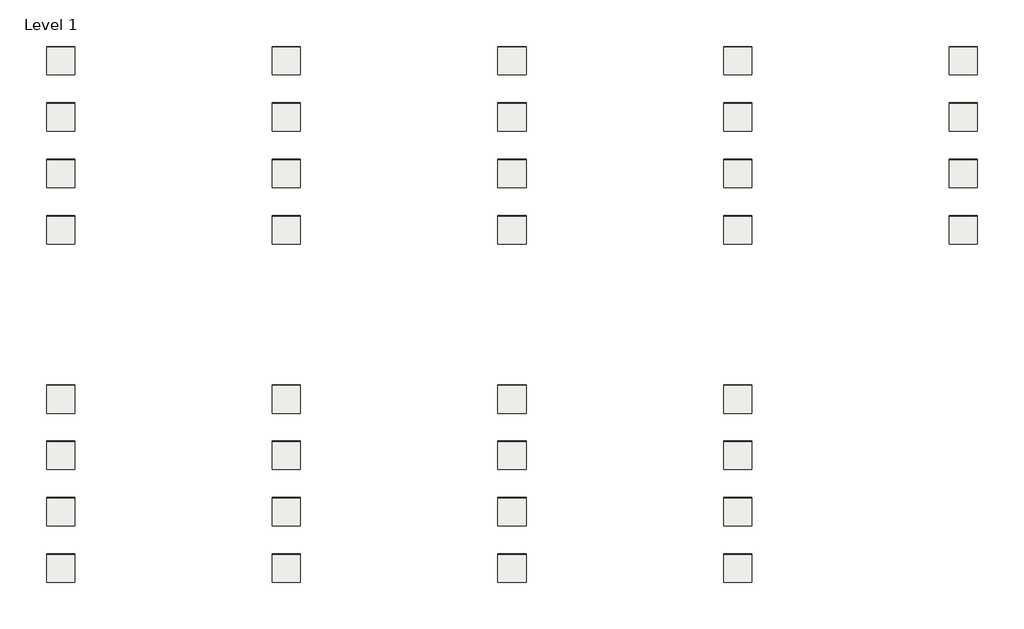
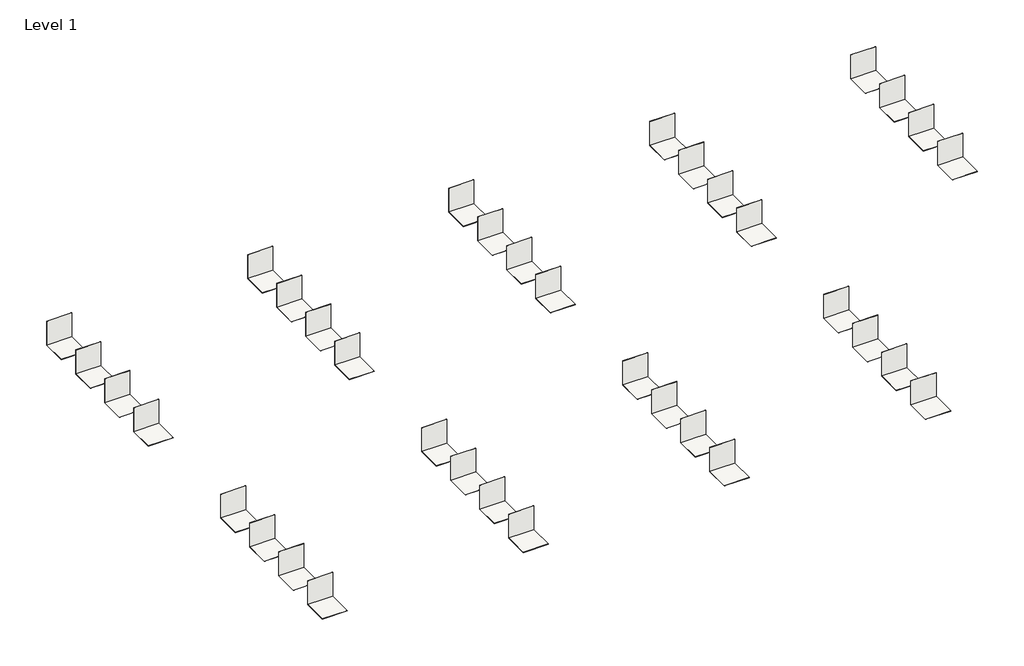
# One storey: 72 coverings.
"""IFC4 building model written with IfcOpenShell, lengths in millimetres."""

import ifcopenshell
import ifcopenshell.guid

model = None  # the IFC model being written
_history = None  # IfcOwnerHistory: only IFC2X3 demands one
_inside = {}  # id of a spatial element -> (the spatial element, [elements in it])
_under = {}  # id of a project, library or spatial element -> (it, [spatial elements below it])
_declared = {}  # id of a project -> (the project, [libraries it declares])
_typed = {}  # id of a type object -> (the type object, [elements of that type])
_made_of = {}  # id of a material, layer set ... -> (it, [elements and type objects made of it])


def new_model(schema):
    """Start an empty IFC model of exactly this schema.

    Asked for "IFC4X3", IfcOpenShell would pick the latest addendum, in which some entities
    have other attributes; the version numbers below select the first issue.
    IFC2X3 requires an IfcOwnerHistory on every rooted entity: one is made here for all.
    """
    global model, _history
    if schema == "IFC4X3":
        model = ifcopenshell.file(schema_version=(4, 3, 0, 0))
    else:
        model = ifcopenshell.file(schema=schema)
    _inside.clear()
    _under.clear()
    _declared.clear()
    _typed.clear()
    _made_of.clear()
    _history = None
    if model.schema == "IFC2X3":
        org = make("IfcOrganization", Name="unknown")
        user = make(
            "IfcPersonAndOrganization",
            ThePerson=make("IfcPerson", FamilyName="unknown"),
            TheOrganization=org,
        )
        app = make(
            "IfcApplication",
            ApplicationDeveloper=org,
            Version="unknown",
            ApplicationFullName="unknown",
            ApplicationIdentifier="unknown",
        )
        _history = make(
            "IfcOwnerHistory",
            OwningUser=user,
            OwningApplication=app,
            ChangeAction="ADDED",
            CreationDate=0,
        )
    return model


def make(cls, **values):
    """One entity of the class cls with the attributes given. An attribute that is None is left unset."""
    return model.create_entity(
        cls, **{name: value for name, value in values.items() if value is not None}
    )


def rooted(cls, **values):
    """An entity with a GlobalId (a new one), such as an element, a storey or a relation."""
    return make(cls, GlobalId=ifcopenshell.guid.new(), OwnerHistory=_history, **values)


def si_unit(unit_type, name, prefix=None):
    """IfcSIUnit, for example si_unit("LENGTHUNIT", "METRE", prefix="MILLI")."""
    return make("IfcSIUnit", UnitType=unit_type, Prefix=prefix, Name=name)


def assignment(units):
    """IfcUnitAssignment: the units of a project."""
    return None if units is None else make("IfcUnitAssignment", Units=units)


def point(xyz):
    """IfcCartesianPoint."""
    return None if xyz is None else make("IfcCartesianPoint", Coordinates=xyz)


def direction(xyz):
    """IfcDirection."""
    return None if xyz is None else make("IfcDirection", DirectionRatios=xyz)


def frame(location, z_axis=None, x_axis=None):
    """IfcAxis2Placement3D, a coordinate frame: its origin and axes. An axis left out is left unset."""
    return make(
        "IfcAxis2Placement3D",
        Location=point(location),
        Axis=direction(z_axis),
        RefDirection=direction(x_axis),
    )


def origin():
    """The frame at (0, 0, 0) with its axes left unset."""
    return frame((0.0, 0.0, 0.0))


def origin_with_axes():
    """The frame at (0, 0, 0) with the z axis (0, 0, 1) and the x axis (1, 0, 0) written out."""
    return frame((0.0, 0.0, 0.0), z_axis=(0.0, 0.0, 1.0), x_axis=(1.0, 0.0, 0.0))


def place(relative_to, where):
    """IfcLocalPlacement: puts the frame where relative to a parent placement (None: the world)."""
    return make(
        "IfcLocalPlacement", PlacementRelTo=relative_to, RelativePlacement=where
    )


def context(
    kind, dimensions, precision=None, world=None, true_north=None, identifier=None
):
    """IfcGeometricRepresentationContext, for example the 3D "Model" context."""
    return make(
        "IfcGeometricRepresentationContext",
        ContextIdentifier=identifier,
        ContextType=kind,
        CoordinateSpaceDimension=dimensions,
        Precision=precision,
        WorldCoordinateSystem=world,
        TrueNorth=true_north,
    )


def project(units=None, contexts=None):
    """IfcProject with its units and contexts."""
    return rooted(
        "IfcProject",
        Name="project",
        RepresentationContexts=contexts,
        UnitsInContext=assignment(units),
    )


def spatial(cls, under=None, at=None, **own):
    """A site, building, storey or space (cls), placed at a placement, below another one or the project."""
    s = rooted(cls, ObjectPlacement=at, **own)
    if under is not None:
        _under.setdefault(under.id(), (under, []))[1].append(s)
    return s


def polyline(points):
    """IfcPolyline through the points."""
    return make("IfcPolyline", Points=[point(p) for p in points])


def outline(outer, holes=None, kind="AREA"):
    """IfcArbitraryClosedProfileDef: a profile drawn as a closed curve; with holes, ...WithVoids."""
    if holes is None:
        return make("IfcArbitraryClosedProfileDef", ProfileType=kind, OuterCurve=outer)
    return make(
        "IfcArbitraryProfileDefWithVoids",
        ProfileType=kind,
        OuterCurve=outer,
        InnerCurves=holes,
    )


def extrude(swept, where, along, depth):
    """IfcExtrudedAreaSolid: the profile swept, set in the frame where, extruded along a direction by depth."""
    return make(
        "IfcExtrudedAreaSolid",
        SweptArea=swept,
        Position=where,
        ExtrudedDirection=direction(along),
        Depth=depth,
    )


def shape(context_of_items, identifier, shape_type, items):
    """IfcShapeRepresentation: the items that make up one representation, for example the "Body"."""
    return make(
        "IfcShapeRepresentation",
        ContextOfItems=context_of_items,
        RepresentationIdentifier=identifier,
        RepresentationType=shape_type,
        Items=items,
    )


def made_of(thing, what):
    """Note that an element or type object is made of a material, layer set ...; save() writes the relation."""
    if what is not None:
        _made_of.setdefault(what.id(), (what, []))[1].append(thing)
    return thing


def element(
    cls,
    number,
    at=None,
    inside=None,
    cuts=None,
    type_object=None,
    material=None,
    context=None,
    identifier="Body",
    shape_type=None,
    held_by="IfcProductDefinitionShape",
    body=None,
    shapes=None,
    **own,
):
    """One element of the class cls, such as IfcWall. Its Tag is "e" and its number.

    at: its placement. inside: the storey or other place that contains it. cuts: it is an
    opening in that element (IfcRelVoidsElement). A single representation is given by context,
    identifier, shape_type and body (its items); several are given by shapes. held_by: the class
    of the entity that holds the representations. save() writes the other relations.
    """
    e = rooted(cls, Tag="e%d" % number, ObjectPlacement=at, **own)
    if body is not None:
        shapes = [shape(context, identifier, shape_type, body)]
    if shapes is not None:
        e.Representation = make(held_by, Representations=shapes)
    if inside is not None:
        _inside.setdefault(inside.id(), (inside, []))[1].append(e)
    if cuts is not None:
        rooted(
            "IfcRelVoidsElement", RelatingBuildingElement=cuts, RelatedOpeningElement=e
        )
    if type_object is not None:
        _typed.setdefault(type_object.id(), (type_object, []))[1].append(e)
    return made_of(e, material)


def aggregate(whole, parts):
    """IfcRelAggregates: a whole, such as a stair, and the parts it consists of."""
    return rooted("IfcRelAggregates", RelatingObject=whole, RelatedObjects=parts)


def save(model, path):
    """Write the relations noted so far, then the file.

    IfcRelAggregates (storeys below a building ...), IfcRelContainedInSpatialStructure (elements
    in a storey), IfcRelDefinesByType, IfcRelAssociatesMaterial and IfcRelDeclares: one each for
    every whole, place, type object, material and project.
    """
    for whole, parts in _under.values():
        aggregate(whole, parts)
    for where, things in _inside.values():
        rooted(
            "IfcRelContainedInSpatialStructure",
            RelatedElements=things,
            RelatingStructure=where,
        )
    for kind, things in _typed.values():
        rooted("IfcRelDefinesByType", RelatedObjects=things, RelatingType=kind)
    for what, things in _made_of.values():
        rooted("IfcRelAssociatesMaterial", RelatedObjects=things, RelatingMaterial=what)
    for by, libraries in _declared.values():
        rooted("IfcRelDeclares", RelatingContext=by, RelatedDefinitions=libraries)
    model.write(path)


model = new_model("IFC4")

# Units and contexts
model_context = context("Model", 3, world=origin())
ifc_project = project(units=[si_unit("LENGTHUNIT", "METRE", prefix="MILLI")], contexts=[model_context])

# Site, building, storey
site = spatial("IfcSite", under=ifc_project)
building = spatial("IfcBuilding", under=site)
storey = spatial("IfcBuildingStorey", under=building, Name="Level 1", Elevation=0.0)

# Coverings
placement = place(None, origin())
element("IfcCovering", 1, ObjectType="REVIGRÉS-CROMATICA-CHEVRON-Right_9,7x59,2 -SOFT-Cromatica_antracite", at=placement, inside=storey, context=model_context, shape_type="SweptSolid", body=[
    extrude(outline(polyline([(4002.0475963, -11601.5675711), (3002.0475963, -11601.5675711), (3002.0475963, -10601.5675711), (4002.0475963, -10601.5675711), (4002.0475963, -11601.5675711)])), frame((0.0, 0.0, -8.5), z_axis=(0.0, 0.0, 1.0), x_axis=(1.0, 0.0, 0.0)), (0.0, 0.0, 1.0), 8.5),
])
element("IfcCovering", 2, ObjectType="REVIGRÉS-CROMATICA-CHEVRON-Right_9,7x59,2 -SOFT-Cromatica_antracite", at=placement, inside=storey, context=model_context, shape_type="SweptSolid", body=[
    extrude(outline(polyline([(4002.0475963, -10601.5675711), (3002.0475963, -10601.5675711), (3002.0475963, -10593.0675711), (4002.0475963, -10593.0675711), (4002.0475963, -10601.5675711)])), origin_with_axes(), (0.0, 0.0, 1.0), 1000.0),
])
element("IfcCovering", 3, ObjectType="REVIGRÉS-CROMATICA-CHEVRON-Left_9,7x59,2 -SOFT-Cromatica_antracite", at=placement, inside=storey, context=model_context, shape_type="SweptSolid", body=[
    extrude(outline(polyline([(4002.0475963, -13601.5675711), (3002.0475963, -13601.5675711), (3002.0475963, -12601.5675711), (4002.0475963, -12601.5675711), (4002.0475963, -13601.5675711)])), frame((0.0, 0.0, -8.5), z_axis=(0.0, 0.0, 1.0), x_axis=(1.0, 0.0, 0.0)), (0.0, 0.0, 1.0), 8.5),
])
element("IfcCovering", 4, ObjectType="REVIGRÉS-CROMATICA-CHEVRON-Left_9,7x59,2 -SOFT-Cromatica_antracite", at=placement, inside=storey, context=model_context, shape_type="SweptSolid", body=[
    extrude(outline(polyline([(4002.0475963, -12601.5675711), (3002.0475963, -12601.5675711), (3002.0475963, -12593.0675711), (4002.0475963, -12593.0675711), (4002.0475963, -12601.5675711)])), origin_with_axes(), (0.0, 0.0, 1.0), 1000.0),
])
element("IfcCovering", 5, ObjectType="REVIGRÉS-CROMATICA-CHEVRON-Right_9,7x29,5 -SOFT-Cromatica_antracite", at=placement, inside=storey, context=model_context, shape_type="SweptSolid", body=[
    extrude(outline(polyline([(4002.0475963, -15601.5675711), (3002.0475963, -15601.5675711), (3002.0475963, -14601.5675711), (4002.0475963, -14601.5675711), (4002.0475963, -15601.5675711)])), frame((0.0, 0.0, -8.5), z_axis=(0.0, 0.0, 1.0), x_axis=(1.0, 0.0, 0.0)), (0.0, 0.0, 1.0), 8.5),
])
element("IfcCovering", 6, ObjectType="REVIGRÉS-CROMATICA-CHEVRON-Right_9,7x29,5 -SOFT-Cromatica_antracite", at=placement, inside=storey, context=model_context, shape_type="SweptSolid", body=[
    extrude(outline(polyline([(4002.0475963, -14601.5675711), (3002.0475963, -14601.5675711), (3002.0475963, -14593.0675711), (4002.0475963, -14593.0675711), (4002.0475963, -14601.5675711)])), origin_with_axes(), (0.0, 0.0, 1.0), 1000.0),
])
element("IfcCovering", 7, ObjectType="REVIGRÉS-CROMATICA-CHEVRON-Left_9,7x29,5 -SOFT-Cromatica_antracite", at=placement, inside=storey, context=model_context, shape_type="SweptSolid", body=[
    extrude(outline(polyline([(4002.0475963, -17601.5675711), (3002.0475963, -17601.5675711), (3002.0475963, -16601.5675711), (4002.0475963, -16601.5675711), (4002.0475963, -17601.5675711)])), frame((0.0, 0.0, -8.5), z_axis=(0.0, 0.0, 1.0), x_axis=(1.0, 0.0, 0.0)), (0.0, 0.0, 1.0), 8.5),
])
element("IfcCovering", 8, ObjectType="REVIGRÉS-CROMATICA-CHEVRON-Left_9,7x29,5 -SOFT-Cromatica_antracite", at=placement, inside=storey, context=model_context, shape_type="SweptSolid", body=[
    extrude(outline(polyline([(4002.0475963, -16601.5675711), (3002.0475963, -16601.5675711), (3002.0475963, -16593.0675711), (4002.0475963, -16593.0675711), (4002.0475963, -16601.5675711)])), origin_with_axes(), (0.0, 0.0, 1.0), 1000.0),
])
element("IfcCovering", 9, ObjectType="REVIGRÉS-CROMATICA-CHEVRON-Right_9,7x59,2 -SOFT-Cromatica_bone", at=placement, inside=storey, context=model_context, shape_type="SweptSolid", body=[
    extrude(outline(polyline([(12002.0475963, -11601.5675711), (11002.0475963, -11601.5675711), (11002.0475963, -10601.5675711), (12002.0475963, -10601.5675711), (12002.0475963, -11601.5675711)])), frame((0.0, 0.0, -8.5), z_axis=(0.0, 0.0, 1.0), x_axis=(1.0, 0.0, 0.0)), (0.0, 0.0, 1.0), 8.5),
])
element("IfcCovering", 10, ObjectType="REVIGRÉS-CROMATICA-CHEVRON-Right_9,7x59,2 -SOFT-Cromatica_bone", at=placement, inside=storey, context=model_context, shape_type="SweptSolid", body=[
    extrude(outline(polyline([(12002.0475963, -10601.5675711), (11002.0475963, -10601.5675711), (11002.0475963, -10593.0675711), (12002.0475963, -10593.0675711), (12002.0475963, -10601.5675711)])), origin_with_axes(), (0.0, 0.0, 1.0), 1000.0),
])
element("IfcCovering", 11, ObjectType="REVIGRÉS-CROMATICA-CHEVRON-Left_9,7x59,2 -SOFT-Cromatica_bone", at=placement, inside=storey, context=model_context, shape_type="SweptSolid", body=[
    extrude(outline(polyline([(12002.0475963, -13601.5675711), (11002.0475963, -13601.5675711), (11002.0475963, -12601.5675711), (12002.0475963, -12601.5675711), (12002.0475963, -13601.5675711)])), frame((0.0, 0.0, -8.5), z_axis=(0.0, 0.0, 1.0), x_axis=(1.0, 0.0, 0.0)), (0.0, 0.0, 1.0), 8.5),
])
element("IfcCovering", 12, ObjectType="REVIGRÉS-CROMATICA-CHEVRON-Left_9,7x59,2 -SOFT-Cromatica_bone", at=placement, inside=storey, context=model_context, shape_type="SweptSolid", body=[
    extrude(outline(polyline([(12002.0475963, -12601.5675711), (11002.0475963, -12601.5675711), (11002.0475963, -12593.0675711), (12002.0475963, -12593.0675711), (12002.0475963, -12601.5675711)])), origin_with_axes(), (0.0, 0.0, 1.0), 1000.0),
])
element("IfcCovering", 13, ObjectType="REVIGRÉS-CROMATICA-CHEVRON-Right_9,7x29,5 -SOFT-Cromatica_bone", at=placement, inside=storey, context=model_context, shape_type="SweptSolid", body=[
    extrude(outline(polyline([(12002.0475963, -15601.5675711), (11002.0475963, -15601.5675711), (11002.0475963, -14601.5675711), (12002.0475963, -14601.5675711), (12002.0475963, -15601.5675711)])), frame((0.0, 0.0, -8.5), z_axis=(0.0, 0.0, 1.0), x_axis=(1.0, 0.0, 0.0)), (0.0, 0.0, 1.0), 8.5),
])
element("IfcCovering", 14, ObjectType="REVIGRÉS-CROMATICA-CHEVRON-Right_9,7x29,5 -SOFT-Cromatica_bone", at=placement, inside=storey, context=model_context, shape_type="SweptSolid", body=[
    extrude(outline(polyline([(12002.0475963, -14601.5675711), (11002.0475963, -14601.5675711), (11002.0475963, -14593.0675711), (12002.0475963, -14593.0675711), (12002.0475963, -14601.5675711)])), origin_with_axes(), (0.0, 0.0, 1.0), 1000.0),
])
element("IfcCovering", 15, ObjectType="REVIGRÉS-CROMATICA-CHEVRON-Left_9,7x29,5 -SOFT-Cromatica_bone", at=placement, inside=storey, context=model_context, shape_type="SweptSolid", body=[
    extrude(outline(polyline([(12002.0475963, -17601.5675711), (11002.0475963, -17601.5675711), (11002.0475963, -16601.5675711), (12002.0475963, -16601.5675711), (12002.0475963, -17601.5675711)])), frame((0.0, 0.0, -8.5), z_axis=(0.0, 0.0, 1.0), x_axis=(1.0, 0.0, 0.0)), (0.0, 0.0, 1.0), 8.5),
])
element("IfcCovering", 16, ObjectType="REVIGRÉS-CROMATICA-CHEVRON-Left_9,7x29,5 -SOFT-Cromatica_bone", at=placement, inside=storey, context=model_context, shape_type="SweptSolid", body=[
    extrude(outline(polyline([(12002.0475963, -16601.5675711), (11002.0475963, -16601.5675711), (11002.0475963, -16593.0675711), (12002.0475963, -16593.0675711), (12002.0475963, -16601.5675711)])), origin_with_axes(), (0.0, 0.0, 1.0), 1000.0),
])
element("IfcCovering", 17, ObjectType="REVIGRÉS-CROMATICA-CHEVRON-Right_9,7x59,2 -SOFT-Cromatica_grafite", at=placement, inside=storey, context=model_context, shape_type="SweptSolid", body=[
    extrude(outline(polyline([(20002.0475963, -11601.5675711), (19002.0475963, -11601.5675711), (19002.0475963, -10601.5675711), (20002.0475963, -10601.5675711), (20002.0475963, -11601.5675711)])), frame((0.0, 0.0, -8.5), z_axis=(0.0, 0.0, 1.0), x_axis=(1.0, 0.0, 0.0)), (0.0, 0.0, 1.0), 8.5),
])
element("IfcCovering", 18, ObjectType="REVIGRÉS-CROMATICA-CHEVRON-Right_9,7x59,2 -SOFT-Cromatica_grafite", at=placement, inside=storey, context=model_context, shape_type="SweptSolid", body=[
    extrude(outline(polyline([(20002.0475963, -10601.5675711), (19002.0475963, -10601.5675711), (19002.0475963, -10593.0675711), (20002.0475963, -10593.0675711), (20002.0475963, -10601.5675711)])), origin_with_axes(), (0.0, 0.0, 1.0), 1000.0),
])
element("IfcCovering", 19, ObjectType="REVIGRÉS-CROMATICA-CHEVRON-Left_9,7x59,2 -SOFT-Cromatica_grafite", at=placement, inside=storey, context=model_context, shape_type="SweptSolid", body=[
    extrude(outline(polyline([(20002.0475963, -13601.5675711), (19002.0475963, -13601.5675711), (19002.0475963, -12601.5675711), (20002.0475963, -12601.5675711), (20002.0475963, -13601.5675711)])), frame((0.0, 0.0, -8.5), z_axis=(0.0, 0.0, 1.0), x_axis=(1.0, 0.0, 0.0)), (0.0, 0.0, 1.0), 8.5),
])
element("IfcCovering", 20, ObjectType="REVIGRÉS-CROMATICA-CHEVRON-Left_9,7x59,2 -SOFT-Cromatica_grafite", at=placement, inside=storey, context=model_context, shape_type="SweptSolid", body=[
    extrude(outline(polyline([(20002.0475963, -12601.5675711), (19002.0475963, -12601.5675711), (19002.0475963, -12593.0675711), (20002.0475963, -12593.0675711), (20002.0475963, -12601.5675711)])), origin_with_axes(), (0.0, 0.0, 1.0), 1000.0),
])
element("IfcCovering", 21, ObjectType="REVIGRÉS-CROMATICA-CHEVRON-Right_9,7x29,5 -SOFT-Cromatica_grafite", at=placement, inside=storey, context=model_context, shape_type="SweptSolid", body=[
    extrude(outline(polyline([(20002.0475963, -15601.5675711), (19002.0475963, -15601.5675711), (19002.0475963, -14601.5675711), (20002.0475963, -14601.5675711), (20002.0475963, -15601.5675711)])), frame((0.0, 0.0, -8.5), z_axis=(0.0, 0.0, 1.0), x_axis=(1.0, 0.0, 0.0)), (0.0, 0.0, 1.0), 8.5),
])
element("IfcCovering", 22, ObjectType="REVIGRÉS-CROMATICA-CHEVRON-Right_9,7x29,5 -SOFT-Cromatica_grafite", at=placement, inside=storey, context=model_context, shape_type="SweptSolid", body=[
    extrude(outline(polyline([(20002.0475963, -14601.5675711), (19002.0475963, -14601.5675711), (19002.0475963, -14593.0675711), (20002.0475963, -14593.0675711), (20002.0475963, -14601.5675711)])), origin_with_axes(), (0.0, 0.0, 1.0), 1000.0),
])
element("IfcCovering", 23, ObjectType="REVIGRÉS-CROMATICA-CHEVRON-Left_9,7x29,5 -SOFT-Cromatica_grafite", at=placement, inside=storey, context=model_context, shape_type="SweptSolid", body=[
    extrude(outline(polyline([(20002.0475963, -17601.5675711), (19002.0475963, -17601.5675711), (19002.0475963, -16601.5675711), (20002.0475963, -16601.5675711), (20002.0475963, -17601.5675711)])), frame((0.0, 0.0, -8.5), z_axis=(0.0, 0.0, 1.0), x_axis=(1.0, 0.0, 0.0)), (0.0, 0.0, 1.0), 8.5),
])
element("IfcCovering", 24, ObjectType="REVIGRÉS-CROMATICA-CHEVRON-Left_9,7x29,5 -SOFT-Cromatica_grafite", at=placement, inside=storey, context=model_context, shape_type="SweptSolid", body=[
    extrude(outline(polyline([(20002.0475963, -16601.5675711), (19002.0475963, -16601.5675711), (19002.0475963, -16593.0675711), (20002.0475963, -16593.0675711), (20002.0475963, -16601.5675711)])), origin_with_axes(), (0.0, 0.0, 1.0), 1000.0),
])
element("IfcCovering", 25, ObjectType="REVIGRÉS-CROMATICA-CHEVRON-Right_9,7x59,2 -SOFT-Cromatica_ice", at=placement, inside=storey, context=model_context, shape_type="SweptSolid", body=[
    extrude(outline(polyline([(28002.0475963, -11601.5675711), (27002.0475963, -11601.5675711), (27002.0475963, -10601.5675711), (28002.0475963, -10601.5675711), (28002.0475963, -11601.5675711)])), frame((0.0, 0.0, -8.5), z_axis=(0.0, 0.0, 1.0), x_axis=(1.0, 0.0, 0.0)), (0.0, 0.0, 1.0), 8.5),
])
element("IfcCovering", 26, ObjectType="REVIGRÉS-CROMATICA-CHEVRON-Right_9,7x59,2 -SOFT-Cromatica_ice", at=placement, inside=storey, context=model_context, shape_type="SweptSolid", body=[
    extrude(outline(polyline([(28002.0475963, -10601.5675711), (27002.0475963, -10601.5675711), (27002.0475963, -10593.0675711), (28002.0475963, -10593.0675711), (28002.0475963, -10601.5675711)])), origin_with_axes(), (0.0, 0.0, 1.0), 1000.0),
])
element("IfcCovering", 27, ObjectType="REVIGRÉS-CROMATICA-CHEVRON-Left_9,7x59,2 -SOFT-Cromatica_ice", at=placement, inside=storey, context=model_context, shape_type="SweptSolid", body=[
    extrude(outline(polyline([(28002.0475963, -13601.5675711), (27002.0475963, -13601.5675711), (27002.0475963, -12601.5675711), (28002.0475963, -12601.5675711), (28002.0475963, -13601.5675711)])), frame((0.0, 0.0, -8.5), z_axis=(0.0, 0.0, 1.0), x_axis=(1.0, 0.0, 0.0)), (0.0, 0.0, 1.0), 8.5),
])
element("IfcCovering", 28, ObjectType="REVIGRÉS-CROMATICA-CHEVRON-Left_9,7x59,2 -SOFT-Cromatica_ice", at=placement, inside=storey, context=model_context, shape_type="SweptSolid", body=[
    extrude(outline(polyline([(28002.0475963, -12601.5675711), (27002.0475963, -12601.5675711), (27002.0475963, -12593.0675711), (28002.0475963, -12593.0675711), (28002.0475963, -12601.5675711)])), origin_with_axes(), (0.0, 0.0, 1.0), 1000.0),
])
element("IfcCovering", 29, ObjectType="REVIGRÉS-CROMATICA-CHEVRON-Right_9,7x29,5 -SOFT-Cromatica_ice", at=placement, inside=storey, context=model_context, shape_type="SweptSolid", body=[
    extrude(outline(polyline([(28002.0475963, -15601.5675711), (27002.0475963, -15601.5675711), (27002.0475963, -14601.5675711), (28002.0475963, -14601.5675711), (28002.0475963, -15601.5675711)])), frame((0.0, 0.0, -8.5), z_axis=(0.0, 0.0, 1.0), x_axis=(1.0, 0.0, 0.0)), (0.0, 0.0, 1.0), 8.5),
])
element("IfcCovering", 30, ObjectType="REVIGRÉS-CROMATICA-CHEVRON-Right_9,7x29,5 -SOFT-Cromatica_ice", at=placement, inside=storey, context=model_context, shape_type="SweptSolid", body=[
    extrude(outline(polyline([(28002.0475963, -14601.5675711), (27002.0475963, -14601.5675711), (27002.0475963, -14593.0675711), (28002.0475963, -14593.0675711), (28002.0475963, -14601.5675711)])), origin_with_axes(), (0.0, 0.0, 1.0), 1000.0),
])
element("IfcCovering", 31, ObjectType="REVIGRÉS-CROMATICA-CHEVRON-Left_9,7x29,5 -SOFT-Cromatica_ice", at=placement, inside=storey, context=model_context, shape_type="SweptSolid", body=[
    extrude(outline(polyline([(28002.0475963, -17601.5675711), (27002.0475963, -17601.5675711), (27002.0475963, -16601.5675711), (28002.0475963, -16601.5675711), (28002.0475963, -17601.5675711)])), frame((0.0, 0.0, -8.5), z_axis=(0.0, 0.0, 1.0), x_axis=(1.0, 0.0, 0.0)), (0.0, 0.0, 1.0), 8.5),
])
element("IfcCovering", 32, ObjectType="REVIGRÉS-CROMATICA-CHEVRON-Left_9,7x29,5 -SOFT-Cromatica_ice", at=placement, inside=storey, context=model_context, shape_type="SweptSolid", body=[
    extrude(outline(polyline([(28002.0475963, -16601.5675711), (27002.0475963, -16601.5675711), (27002.0475963, -16593.0675711), (28002.0475963, -16593.0675711), (28002.0475963, -16601.5675711)])), origin_with_axes(), (0.0, 0.0, 1.0), 1000.0),
])
element("IfcCovering", 33, ObjectType="REVIGRÉS-CROMATICA-CHEVRON-Right_9,7x59,2 -SOFT-Cromatica_jet", at=placement, inside=storey, context=model_context, shape_type="SweptSolid", body=[
    extrude(outline(polyline([(36002.0475963, -11601.5675711), (35002.0475963, -11601.5675711), (35002.0475963, -10601.5675711), (36002.0475963, -10601.5675711), (36002.0475963, -11601.5675711)])), frame((0.0, 0.0, -8.5), z_axis=(0.0, 0.0, 1.0), x_axis=(1.0, 0.0, 0.0)), (0.0, 0.0, 1.0), 8.5),
])
element("IfcCovering", 34, ObjectType="REVIGRÉS-CROMATICA-CHEVRON-Right_9,7x59,2 -SOFT-Cromatica_jet", at=placement, inside=storey, context=model_context, shape_type="SweptSolid", body=[
    extrude(outline(polyline([(36002.0475963, -10601.5675711), (35002.0475963, -10601.5675711), (35002.0475963, -10593.0675711), (36002.0475963, -10593.0675711), (36002.0475963, -10601.5675711)])), origin_with_axes(), (0.0, 0.0, 1.0), 1000.0),
])
element("IfcCovering", 35, ObjectType="REVIGRÉS-CROMATICA-CHEVRON-Left_9,7x59,2 -SOFT-Cromatica_jet", at=placement, inside=storey, context=model_context, shape_type="SweptSolid", body=[
    extrude(outline(polyline([(36002.0475963, -13601.5675711), (35002.0475963, -13601.5675711), (35002.0475963, -12601.5675711), (36002.0475963, -12601.5675711), (36002.0475963, -13601.5675711)])), frame((0.0, 0.0, -8.5), z_axis=(0.0, 0.0, 1.0), x_axis=(1.0, 0.0, 0.0)), (0.0, 0.0, 1.0), 8.5),
])
element("IfcCovering", 36, ObjectType="REVIGRÉS-CROMATICA-CHEVRON-Left_9,7x59,2 -SOFT-Cromatica_jet", at=placement, inside=storey, context=model_context, shape_type="SweptSolid", body=[
    extrude(outline(polyline([(36002.0475963, -12601.5675711), (35002.0475963, -12601.5675711), (35002.0475963, -12593.0675711), (36002.0475963, -12593.0675711), (36002.0475963, -12601.5675711)])), origin_with_axes(), (0.0, 0.0, 1.0), 1000.0),
])
element("IfcCovering", 37, ObjectType="REVIGRÉS-CROMATICA-CHEVRON-Right_9,7x29,5 -SOFT-Cromatica_jet", at=placement, inside=storey, context=model_context, shape_type="SweptSolid", body=[
    extrude(outline(polyline([(36002.0475963, -15601.5675711), (35002.0475963, -15601.5675711), (35002.0475963, -14601.5675711), (36002.0475963, -14601.5675711), (36002.0475963, -15601.5675711)])), frame((0.0, 0.0, -8.5), z_axis=(0.0, 0.0, 1.0), x_axis=(1.0, 0.0, 0.0)), (0.0, 0.0, 1.0), 8.5),
])
element("IfcCovering", 38, ObjectType="REVIGRÉS-CROMATICA-CHEVRON-Right_9,7x29,5 -SOFT-Cromatica_jet", at=placement, inside=storey, context=model_context, shape_type="SweptSolid", body=[
    extrude(outline(polyline([(36002.0475963, -14601.5675711), (35002.0475963, -14601.5675711), (35002.0475963, -14593.0675711), (36002.0475963, -14593.0675711), (36002.0475963, -14601.5675711)])), origin_with_axes(), (0.0, 0.0, 1.0), 1000.0),
])
element("IfcCovering", 39, ObjectType="REVIGRÉS-CROMATICA-CHEVRON-Left_9,7x29,5 -SOFT-Cromatica_jet", at=placement, inside=storey, context=model_context, shape_type="SweptSolid", body=[
    extrude(outline(polyline([(36002.0475963, -17601.5675711), (35002.0475963, -17601.5675711), (35002.0475963, -16601.5675711), (36002.0475963, -16601.5675711), (36002.0475963, -17601.5675711)])), frame((0.0, 0.0, -8.5), z_axis=(0.0, 0.0, 1.0), x_axis=(1.0, 0.0, 0.0)), (0.0, 0.0, 1.0), 8.5),
])
element("IfcCovering", 40, ObjectType="REVIGRÉS-CROMATICA-CHEVRON-Left_9,7x29,5 -SOFT-Cromatica_jet", at=placement, inside=storey, context=model_context, shape_type="SweptSolid", body=[
    extrude(outline(polyline([(36002.0475963, -16601.5675711), (35002.0475963, -16601.5675711), (35002.0475963, -16593.0675711), (36002.0475963, -16593.0675711), (36002.0475963, -16601.5675711)])), origin_with_axes(), (0.0, 0.0, 1.0), 1000.0),
])
element("IfcCovering", 41, ObjectType="REVIGRÉS-CROMATICA-CHEVRON-Right_9,7x59,2 -SOFT-Cromatica_platina", at=placement, inside=storey, context=model_context, shape_type="SweptSolid", body=[
    extrude(outline(polyline([(4002.0475963, -23601.567571), (3002.0475963, -23601.567571), (3002.0475963, -22601.567571), (4002.0475963, -22601.567571), (4002.0475963, -23601.567571)])), frame((0.0, 0.0, -8.5), z_axis=(0.0, 0.0, 1.0), x_axis=(1.0, 0.0, 0.0)), (0.0, 0.0, 1.0), 8.5),
])
element("IfcCovering", 42, ObjectType="REVIGRÉS-CROMATICA-CHEVRON-Right_9,7x59,2 -SOFT-Cromatica_platina", at=placement, inside=storey, context=model_context, shape_type="SweptSolid", body=[
    extrude(outline(polyline([(4002.0475963, -22601.567571), (3002.0475963, -22601.567571), (3002.0475963, -22593.067571), (4002.0475963, -22593.067571), (4002.0475963, -22601.567571)])), origin_with_axes(), (0.0, 0.0, 1.0), 1000.0),
])
element("IfcCovering", 43, ObjectType="REVIGRÉS-CROMATICA-CHEVRON-Left_9,7x59,2 -SOFT-Cromatica_platina", at=placement, inside=storey, context=model_context, shape_type="SweptSolid", body=[
    extrude(outline(polyline([(4002.0475963, -25601.567571), (3002.0475963, -25601.567571), (3002.0475963, -24601.567571), (4002.0475963, -24601.567571), (4002.0475963, -25601.567571)])), frame((0.0, 0.0, -8.5), z_axis=(0.0, 0.0, 1.0), x_axis=(1.0, 0.0, 0.0)), (0.0, 0.0, 1.0), 8.5),
])
element("IfcCovering", 44, ObjectType="REVIGRÉS-CROMATICA-CHEVRON-Left_9,7x59,2 -SOFT-Cromatica_platina", at=placement, inside=storey, context=model_context, shape_type="SweptSolid", body=[
    extrude(outline(polyline([(4002.0475963, -24601.567571), (3002.0475963, -24601.567571), (3002.0475963, -24593.067571), (4002.0475963, -24593.067571), (4002.0475963, -24601.567571)])), origin_with_axes(), (0.0, 0.0, 1.0), 1000.0),
])
element("IfcCovering", 45, ObjectType="REVIGRÉS-CROMATICA-CHEVRON-Right_9,7x29,5 -SOFT-Cromatica_platina", at=placement, inside=storey, context=model_context, shape_type="SweptSolid", body=[
    extrude(outline(polyline([(4002.0475963, -27601.567571), (3002.0475963, -27601.567571), (3002.0475963, -26601.567571), (4002.0475963, -26601.567571), (4002.0475963, -27601.567571)])), frame((0.0, 0.0, -8.5), z_axis=(0.0, 0.0, 1.0), x_axis=(1.0, 0.0, 0.0)), (0.0, 0.0, 1.0), 8.5),
])
element("IfcCovering", 46, ObjectType="REVIGRÉS-CROMATICA-CHEVRON-Right_9,7x29,5 -SOFT-Cromatica_platina", at=placement, inside=storey, context=model_context, shape_type="SweptSolid", body=[
    extrude(outline(polyline([(4002.0475963, -26601.567571), (3002.0475963, -26601.567571), (3002.0475963, -26593.067571), (4002.0475963, -26593.067571), (4002.0475963, -26601.567571)])), origin_with_axes(), (0.0, 0.0, 1.0), 1000.0),
])
element("IfcCovering", 47, ObjectType="REVIGRÉS-CROMATICA-CHEVRON-Left_9,7x29,5 -SOFT-Cromatica_platina", at=placement, inside=storey, context=model_context, shape_type="SweptSolid", body=[
    extrude(outline(polyline([(4002.0475963, -29601.567571), (3002.0475963, -29601.567571), (3002.0475963, -28601.567571), (4002.0475963, -28601.567571), (4002.0475963, -29601.567571)])), frame((0.0, 0.0, -8.5), z_axis=(0.0, 0.0, 1.0), x_axis=(1.0, 0.0, 0.0)), (0.0, 0.0, 1.0), 8.5),
])
element("IfcCovering", 48, ObjectType="REVIGRÉS-CROMATICA-CHEVRON-Left_9,7x29,5 -SOFT-Cromatica_platina", at=placement, inside=storey, context=model_context, shape_type="SweptSolid", body=[
    extrude(outline(polyline([(4002.0475963, -28601.567571), (3002.0475963, -28601.567571), (3002.0475963, -28593.067571), (4002.0475963, -28593.067571), (4002.0475963, -28601.567571)])), origin_with_axes(), (0.0, 0.0, 1.0), 1000.0),
])
element("IfcCovering", 49, ObjectType="REVIGRÉS-CROMATICA-CHEVRON-Right_9,7x59,2 -SOFT-Cromatica_preto", at=placement, inside=storey, context=model_context, shape_type="SweptSolid", body=[
    extrude(outline(polyline([(12002.0475963, -23601.567571), (11002.0475963, -23601.567571), (11002.0475963, -22601.567571), (12002.0475963, -22601.567571), (12002.0475963, -23601.567571)])), frame((0.0, 0.0, -8.5), z_axis=(0.0, 0.0, 1.0), x_axis=(1.0, 0.0, 0.0)), (0.0, 0.0, 1.0), 8.5),
])
element("IfcCovering", 50, ObjectType="REVIGRÉS-CROMATICA-CHEVRON-Right_9,7x59,2 -SOFT-Cromatica_preto", at=placement, inside=storey, context=model_context, shape_type="SweptSolid", body=[
    extrude(outline(polyline([(12002.0475963, -22601.567571), (11002.0475963, -22601.567571), (11002.0475963, -22593.067571), (12002.0475963, -22593.067571), (12002.0475963, -22601.567571)])), origin_with_axes(), (0.0, 0.0, 1.0), 1000.0),
])
element("IfcCovering", 51, ObjectType="REVIGRÉS-CROMATICA-CHEVRON-Left_9,7x59,2 -SOFT-Cromatica_preto", at=placement, inside=storey, context=model_context, shape_type="SweptSolid", body=[
    extrude(outline(polyline([(12002.0475963, -25601.567571), (11002.0475963, -25601.567571), (11002.0475963, -24601.567571), (12002.0475963, -24601.567571), (12002.0475963, -25601.567571)])), frame((0.0, 0.0, -8.5), z_axis=(0.0, 0.0, 1.0), x_axis=(1.0, 0.0, 0.0)), (0.0, 0.0, 1.0), 8.5),
])
element("IfcCovering", 52, ObjectType="REVIGRÉS-CROMATICA-CHEVRON-Left_9,7x59,2 -SOFT-Cromatica_preto", at=placement, inside=storey, context=model_context, shape_type="SweptSolid", body=[
    extrude(outline(polyline([(12002.0475963, -24601.567571), (11002.0475963, -24601.567571), (11002.0475963, -24593.067571), (12002.0475963, -24593.067571), (12002.0475963, -24601.567571)])), origin_with_axes(), (0.0, 0.0, 1.0), 1000.0),
])
element("IfcCovering", 53, ObjectType="REVIGRÉS-CROMATICA-CHEVRON-Right_9,7x29,5 -SOFT-Cromatica_preto", at=placement, inside=storey, context=model_context, shape_type="SweptSolid", body=[
    extrude(outline(polyline([(12002.0475963, -27601.567571), (11002.0475963, -27601.567571), (11002.0475963, -26601.567571), (12002.0475963, -26601.567571), (12002.0475963, -27601.567571)])), frame((0.0, 0.0, -8.5), z_axis=(0.0, 0.0, 1.0), x_axis=(1.0, 0.0, 0.0)), (0.0, 0.0, 1.0), 8.5),
])
element("IfcCovering", 54, ObjectType="REVIGRÉS-CROMATICA-CHEVRON-Right_9,7x29,5 -SOFT-Cromatica_preto", at=placement, inside=storey, context=model_context, shape_type="SweptSolid", body=[
    extrude(outline(polyline([(12002.0475963, -26601.567571), (11002.0475963, -26601.567571), (11002.0475963, -26593.067571), (12002.0475963, -26593.067571), (12002.0475963, -26601.567571)])), origin_with_axes(), (0.0, 0.0, 1.0), 1000.0),
])
element("IfcCovering", 55, ObjectType="REVIGRÉS-CROMATICA-CHEVRON-Left_9,7x29,5 -SOFT-Cromatica_preto", at=placement, inside=storey, context=model_context, shape_type="SweptSolid", body=[
    extrude(outline(polyline([(12002.0475963, -29601.567571), (11002.0475963, -29601.567571), (11002.0475963, -28601.567571), (12002.0475963, -28601.567571), (12002.0475963, -29601.567571)])), frame((0.0, 0.0, -8.5), z_axis=(0.0, 0.0, 1.0), x_axis=(1.0, 0.0, 0.0)), (0.0, 0.0, 1.0), 8.5),
])
element("IfcCovering", 56, ObjectType="REVIGRÉS-CROMATICA-CHEVRON-Left_9,7x29,5 -SOFT-Cromatica_preto", at=placement, inside=storey, context=model_context, shape_type="SweptSolid", body=[
    extrude(outline(polyline([(12002.0475963, -28601.567571), (11002.0475963, -28601.567571), (11002.0475963, -28593.067571), (12002.0475963, -28593.067571), (12002.0475963, -28601.567571)])), origin_with_axes(), (0.0, 0.0, 1.0), 1000.0),
])
element("IfcCovering", 57, ObjectType="REVIGRÉS-CROMATICA-CHEVRON-Right_9,7x59,2 -SOFT-Cromatica_quartz", at=placement, inside=storey, context=model_context, shape_type="SweptSolid", body=[
    extrude(outline(polyline([(20002.0475963, -23601.567571), (19002.0475963, -23601.567571), (19002.0475963, -22601.567571), (20002.0475963, -22601.567571), (20002.0475963, -23601.567571)])), frame((0.0, 0.0, -8.5), z_axis=(0.0, 0.0, 1.0), x_axis=(1.0, 0.0, 0.0)), (0.0, 0.0, 1.0), 8.5),
])
element("IfcCovering", 58, ObjectType="REVIGRÉS-CROMATICA-CHEVRON-Right_9,7x59,2 -SOFT-Cromatica_quartz", at=placement, inside=storey, context=model_context, shape_type="SweptSolid", body=[
    extrude(outline(polyline([(20002.0475963, -22601.567571), (19002.0475963, -22601.567571), (19002.0475963, -22593.067571), (20002.0475963, -22593.067571), (20002.0475963, -22601.567571)])), origin_with_axes(), (0.0, 0.0, 1.0), 1000.0),
])
element("IfcCovering", 59, ObjectType="REVIGRÉS-CROMATICA-CHEVRON-Left_9,7x59,2 -SOFT-Cromatica_quartz", at=placement, inside=storey, context=model_context, shape_type="SweptSolid", body=[
    extrude(outline(polyline([(20002.0475963, -25601.567571), (19002.0475963, -25601.567571), (19002.0475963, -24601.567571), (20002.0475963, -24601.567571), (20002.0475963, -25601.567571)])), frame((0.0, 0.0, -8.5), z_axis=(0.0, 0.0, 1.0), x_axis=(1.0, 0.0, 0.0)), (0.0, 0.0, 1.0), 8.5),
])
element("IfcCovering", 60, ObjectType="REVIGRÉS-CROMATICA-CHEVRON-Left_9,7x59,2 -SOFT-Cromatica_quartz", at=placement, inside=storey, context=model_context, shape_type="SweptSolid", body=[
    extrude(outline(polyline([(20002.0475963, -24601.567571), (19002.0475963, -24601.567571), (19002.0475963, -24593.067571), (20002.0475963, -24593.067571), (20002.0475963, -24601.567571)])), origin_with_axes(), (0.0, 0.0, 1.0), 1000.0),
])
element("IfcCovering", 61, ObjectType="REVIGRÉS-CROMATICA-CHEVRON-Right_9,7x29,5 -SOFT-Cromatica_quartz", at=placement, inside=storey, context=model_context, shape_type="SweptSolid", body=[
    extrude(outline(polyline([(20002.0475963, -27601.567571), (19002.0475963, -27601.567571), (19002.0475963, -26601.567571), (20002.0475963, -26601.567571), (20002.0475963, -27601.567571)])), frame((0.0, 0.0, -8.5), z_axis=(0.0, 0.0, 1.0), x_axis=(1.0, 0.0, 0.0)), (0.0, 0.0, 1.0), 8.5),
])
element("IfcCovering", 62, ObjectType="REVIGRÉS-CROMATICA-CHEVRON-Right_9,7x29,5 -SOFT-Cromatica_quartz", at=placement, inside=storey, context=model_context, shape_type="SweptSolid", body=[
    extrude(outline(polyline([(20002.0475963, -26601.567571), (19002.0475963, -26601.567571), (19002.0475963, -26593.067571), (20002.0475963, -26593.067571), (20002.0475963, -26601.567571)])), origin_with_axes(), (0.0, 0.0, 1.0), 1000.0),
])
element("IfcCovering", 63, ObjectType="REVIGRÉS-CROMATICA-CHEVRON-Left_9,7x29,5 -SOFT-Cromatica_quartz", at=placement, inside=storey, context=model_context, shape_type="SweptSolid", body=[
    extrude(outline(polyline([(20002.0475963, -29601.567571), (19002.0475963, -29601.567571), (19002.0475963, -28601.567571), (20002.0475963, -28601.567571), (20002.0475963, -29601.567571)])), frame((0.0, 0.0, -8.5), z_axis=(0.0, 0.0, 1.0), x_axis=(1.0, 0.0, 0.0)), (0.0, 0.0, 1.0), 8.5),
])
element("IfcCovering", 64, ObjectType="REVIGRÉS-CROMATICA-CHEVRON-Left_9,7x29,5 -SOFT-Cromatica_quartz", at=placement, inside=storey, context=model_context, shape_type="SweptSolid", body=[
    extrude(outline(polyline([(20002.0475963, -28601.567571), (19002.0475963, -28601.567571), (19002.0475963, -28593.067571), (20002.0475963, -28593.067571), (20002.0475963, -28601.567571)])), origin_with_axes(), (0.0, 0.0, 1.0), 1000.0),
])
element("IfcCovering", 65, ObjectType="REVIGRÉS-CROMATICA-CHEVRON-Right_9,7x59,2 -SOFT-Cromatica_superbranco", at=placement, inside=storey, context=model_context, shape_type="SweptSolid", body=[
    extrude(outline(polyline([(28002.0475963, -23601.567571), (27002.0475963, -23601.567571), (27002.0475963, -22601.567571), (28002.0475963, -22601.567571), (28002.0475963, -23601.567571)])), frame((0.0, 0.0, -8.5), z_axis=(0.0, 0.0, 1.0), x_axis=(1.0, 0.0, 0.0)), (0.0, 0.0, 1.0), 8.5),
])
element("IfcCovering", 66, ObjectType="REVIGRÉS-CROMATICA-CHEVRON-Right_9,7x59,2 -SOFT-Cromatica_superbranco", at=placement, inside=storey, context=model_context, shape_type="SweptSolid", body=[
    extrude(outline(polyline([(28002.0475963, -22601.567571), (27002.0475963, -22601.567571), (27002.0475963, -22593.067571), (28002.0475963, -22593.067571), (28002.0475963, -22601.567571)])), origin_with_axes(), (0.0, 0.0, 1.0), 1000.0),
])
element("IfcCovering", 67, ObjectType="REVIGRÉS-CROMATICA-CHEVRON-Left_9,7x59,2 -SOFT-Cromatica_superbranco", at=placement, inside=storey, context=model_context, shape_type="SweptSolid", body=[
    extrude(outline(polyline([(28002.0475963, -25601.567571), (27002.0475963, -25601.567571), (27002.0475963, -24601.567571), (28002.0475963, -24601.567571), (28002.0475963, -25601.567571)])), frame((0.0, 0.0, -8.5), z_axis=(0.0, 0.0, 1.0), x_axis=(1.0, 0.0, 0.0)), (0.0, 0.0, 1.0), 8.5),
])
element("IfcCovering", 68, ObjectType="REVIGRÉS-CROMATICA-CHEVRON-Left_9,7x59,2 -SOFT-Cromatica_superbranco", at=placement, inside=storey, context=model_context, shape_type="SweptSolid", body=[
    extrude(outline(polyline([(28002.0475963, -24601.567571), (27002.0475963, -24601.567571), (27002.0475963, -24593.067571), (28002.0475963, -24593.067571), (28002.0475963, -24601.567571)])), origin_with_axes(), (0.0, 0.0, 1.0), 1000.0),
])
element("IfcCovering", 69, ObjectType="REVIGRÉS-CROMATICA-CHEVRON-Right_9,7x29,5 -SOFT-Cromatica_superbranco", at=placement, inside=storey, context=model_context, shape_type="SweptSolid", body=[
    extrude(outline(polyline([(28002.0475963, -27601.567571), (27002.0475963, -27601.567571), (27002.0475963, -26601.567571), (28002.0475963, -26601.567571), (28002.0475963, -27601.567571)])), frame((0.0, 0.0, -8.5), z_axis=(0.0, 0.0, 1.0), x_axis=(1.0, 0.0, 0.0)), (0.0, 0.0, 1.0), 8.5),
])
element("IfcCovering", 70, ObjectType="REVIGRÉS-CROMATICA-CHEVRON-Right_9,7x29,5 -SOFT-Cromatica_superbranco", at=placement, inside=storey, context=model_context, shape_type="SweptSolid", body=[
    extrude(outline(polyline([(28002.0475963, -26601.567571), (27002.0475963, -26601.567571), (27002.0475963, -26593.067571), (28002.0475963, -26593.067571), (28002.0475963, -26601.567571)])), origin_with_axes(), (0.0, 0.0, 1.0), 1000.0),
])
element("IfcCovering", 71, ObjectType="REVIGRÉS-CROMATICA-CHEVRON-Left_9,7x29,5 -SOFT-Cromatica_superbranco", at=placement, inside=storey, context=model_context, shape_type="SweptSolid", body=[
    extrude(outline(polyline([(28002.0475963, -29601.567571), (27002.0475963, -29601.567571), (27002.0475963, -28601.567571), (28002.0475963, -28601.567571), (28002.0475963, -29601.567571)])), frame((0.0, 0.0, -8.5), z_axis=(0.0, 0.0, 1.0), x_axis=(1.0, 0.0, 0.0)), (0.0, 0.0, 1.0), 8.5),
])
element("IfcCovering", 72, ObjectType="REVIGRÉS-CROMATICA-CHEVRON-Left_9,7x29,5 -SOFT-Cromatica_superbranco", at=placement, inside=storey, context=model_context, shape_type="SweptSolid", body=[
    extrude(outline(polyline([(28002.0475963, -28601.567571), (27002.0475963, -28601.567571), (27002.0475963, -28593.067571), (28002.0475963, -28593.067571), (28002.0475963, -28601.567571)])), origin_with_axes(), (0.0, 0.0, 1.0), 1000.0),
])

save(model, "model.ifc")
